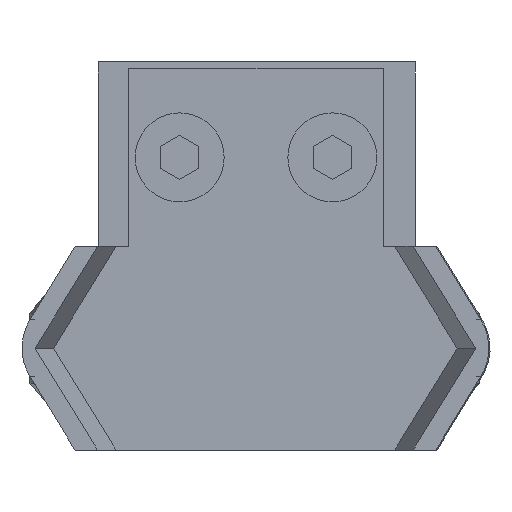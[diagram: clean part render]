
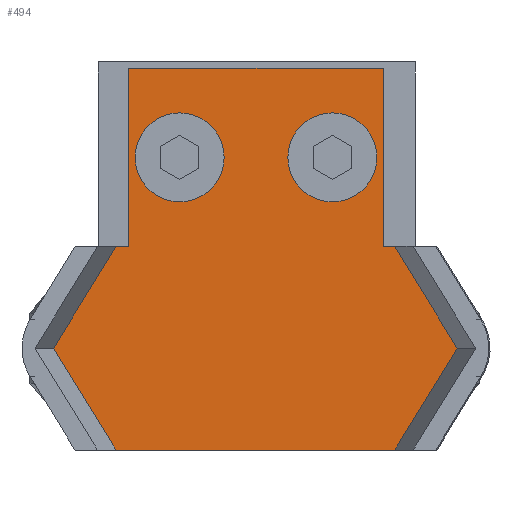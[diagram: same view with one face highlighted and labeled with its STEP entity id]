
A CAD part, left-side view. The second image highlights one B-rep face of the part: STEP entity #494.
In plain terms, the highlighted planar face has unit normal (-1, 0, 0).
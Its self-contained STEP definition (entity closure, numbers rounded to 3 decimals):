
#173 = LINE ( 'NONE', #5187, #6583 ) ;
#312 = CARTESIAN_POINT ( 'NONE',  ( 4., 7., 9.5 ) ) ;
#318 = VERTEX_POINT ( 'NONE', #1575 ) ;
#334 = ORIENTED_EDGE ( 'NONE', *, *, #6586, .F. ) ;
#479 = CARTESIAN_POINT ( 'NONE',  ( 4., 0., 10.899 ) ) ;
#494 = ADVANCED_FACE ( 'NONE', ( #3656, #1841, #1546 ), #5411, .F. ) ;
#552 = ORIENTED_EDGE ( 'NONE', *, *, #6124, .F. ) ;
#555 = DIRECTION ( 'NONE',  ( 0., 0.852, -0.523 ) ) ;
#560 = AXIS2_PLACEMENT_3D ( 'NONE', #3269, #6871, #6290 ) ;
#780 = VECTOR ( 'NONE', #6326, 1000. ) ;
#789 = CIRCLE ( 'NONE', #2034, 3.5 ) ;
#856 = DIRECTION ( 'NONE',  ( 0., 0., -1. ) ) ;
#878 = CARTESIAN_POINT ( 'NONE',  ( 4., 7., -6. ) ) ;
#929 = ORIENTED_EDGE ( 'NONE', *, *, #2336, .T. ) ;
#1027 = EDGE_CURVE ( 'NONE', #4035, #2420, #1358, .T. ) ;
#1049 = CARTESIAN_POINT ( 'NONE',  ( 4., -16., -10.999 ) ) ;
#1078 = ORIENTED_EDGE ( 'NONE', *, *, #6033, .T. ) ;
#1145 = ORIENTED_EDGE ( 'NONE', *, *, #7195, .F. ) ;
#1148 = LINE ( 'NONE', #479, #5589 ) ;
#1211 = AXIS2_PLACEMENT_3D ( 'NONE', #1239, #4903, #5469 ) ;
#1233 = AXIS2_PLACEMENT_3D ( 'NONE', #3637, #5389, #1691 ) ;
#1239 = CARTESIAN_POINT ( 'NONE',  ( 4., 7., -6. ) ) ;
#1358 = LINE ( 'NONE', #3595, #5988 ) ;
#1509 = EDGE_CURVE ( 'NONE', #2002, #3745, #4288, .T. ) ;
#1546 = FACE_BOUND ( 'NONE', #6380, .T. ) ;
#1575 = CARTESIAN_POINT ( 'NONE',  ( 4., -8., 15.814 ) ) ;
#1590 = EDGE_CURVE ( 'NONE', #4131, #6345, #7204, .T. ) ;
#1631 = EDGE_CURVE ( 'NONE', #5067, #7225, #2766, .T. ) ;
#1691 = DIRECTION ( 'NONE',  ( 0., 0., -1. ) ) ;
#1692 = ORIENTED_EDGE ( 'NONE', *, *, #2794, .F. ) ;
#1700 = CARTESIAN_POINT ( 'NONE',  ( 4., 14., -10. ) ) ;
#1752 = VERTEX_POINT ( 'NONE', #6266 ) ;
#1756 = VERTEX_POINT ( 'NONE', #2048 ) ;
#1841 = FACE_BOUND ( 'NONE', #2419, .T. ) ;
#1960 = ORIENTED_EDGE ( 'NONE', *, *, #1509, .F. ) ;
#1963 = CARTESIAN_POINT ( 'NONE',  ( 4., 0., -10. ) ) ;
#2002 = VERTEX_POINT ( 'NONE', #5959 ) ;
#2034 = AXIS2_PLACEMENT_3D ( 'NONE', #4967, #5633, #856 ) ;
#2048 = CARTESIAN_POINT ( 'NONE',  ( 4., 0., 10. ) ) ;
#2077 = EDGE_CURVE ( 'NONE', #1752, #1756, #5313, .T. ) ;
#2086 = LINE ( 'NONE', #6878, #5472 ) ;
#2169 = DIRECTION ( 'NONE',  ( 0., 0.852, 0.523 ) ) ;
#2178 = CARTESIAN_POINT ( 'NONE',  ( 4., 0., -10. ) ) ;
#2179 = LINE ( 'NONE', #1963, #4184 ) ;
#2336 = EDGE_CURVE ( 'NONE', #3407, #3745, #2179, .T. ) ;
#2354 = VECTOR ( 'NONE', #3751, 1000. ) ;
#2419 = EDGE_LOOP ( 'NONE', ( #2770, #1145 ) ) ;
#2420 = VERTEX_POINT ( 'NONE', #4343 ) ;
#2523 = DIRECTION ( 'NONE',  ( 0., 0., -1. ) ) ;
#2675 = LINE ( 'NONE', #1049, #2960 ) ;
#2766 = CIRCLE ( 'NONE', #560, 3.5 ) ;
#2770 = ORIENTED_EDGE ( 'NONE', *, *, #1590, .F. ) ;
#2794 = EDGE_CURVE ( 'NONE', #1752, #318, #1148, .T. ) ;
#2935 = DIRECTION ( 'NONE',  ( 0., 0., 1. ) ) ;
#2960 = VECTOR ( 'NONE', #555, 1000. ) ;
#3010 = AXIS2_PLACEMENT_3D ( 'NONE', #878, #3332, #3304 ) ;
#3169 = ORIENTED_EDGE ( 'NONE', *, *, #1027, .T. ) ;
#3239 = EDGE_CURVE ( 'NONE', #4420, #3407, #4185, .T. ) ;
#3269 = CARTESIAN_POINT ( 'NONE',  ( 4., 7., 6. ) ) ;
#3304 = DIRECTION ( 'NONE',  ( 0., 0., -1. ) ) ;
#3308 = LINE ( 'NONE', #7346, #2354 ) ;
#3332 = DIRECTION ( 'NONE',  ( -1., 0., 0. ) ) ;
#3407 = VERTEX_POINT ( 'NONE', #1700 ) ;
#3595 = CARTESIAN_POINT ( 'NONE',  ( 4., -16., 20. ) ) ;
#3637 = CARTESIAN_POINT ( 'NONE',  ( 4., 0., 0. ) ) ;
#3656 = FACE_OUTER_BOUND ( 'NONE', #6940, .T. ) ;
#3745 = VERTEX_POINT ( 'NONE', #2178 ) ;
#3751 = DIRECTION ( 'NONE',  ( 0., 1., 0. ) ) ;
#3931 = ORIENTED_EDGE ( 'NONE', *, *, #1631, .F. ) ;
#3998 = ORIENTED_EDGE ( 'NONE', *, *, #6077, .F. ) ;
#4035 = VERTEX_POINT ( 'NONE', #4472 ) ;
#4131 = VERTEX_POINT ( 'NONE', #7778 ) ;
#4184 = VECTOR ( 'NONE', #6159, 1000. ) ;
#4185 = LINE ( 'NONE', #5103, #780 ) ;
#4281 = CARTESIAN_POINT ( 'NONE',  ( 4., 7., 2.5 ) ) ;
#4288 = LINE ( 'NONE', #6539, #7297 ) ;
#4343 = CARTESIAN_POINT ( 'NONE',  ( 4., -16., 10.899 ) ) ;
#4399 = CARTESIAN_POINT ( 'NONE',  ( 4., 7., -2.5 ) ) ;
#4420 = VERTEX_POINT ( 'NONE', #7575 ) ;
#4472 = CARTESIAN_POINT ( 'NONE',  ( 4., -16., -10.999 ) ) ;
#4693 = ORIENTED_EDGE ( 'NONE', *, *, #5669, .F. ) ;
#4903 = DIRECTION ( 'NONE',  ( -1., 0., 0. ) ) ;
#4967 = CARTESIAN_POINT ( 'NONE',  ( 4., 7., 6. ) ) ;
#5067 = VERTEX_POINT ( 'NONE', #4281 ) ;
#5096 = DIRECTION ( 'NONE',  ( 0., -0.852, -0.523 ) ) ;
#5103 = CARTESIAN_POINT ( 'NONE',  ( 4., 14., -10. ) ) ;
#5116 = VECTOR ( 'NONE', #2523, 1000. ) ;
#5187 = CARTESIAN_POINT ( 'NONE',  ( 4., -8., -15.914 ) ) ;
#5313 = LINE ( 'NONE', #5590, #5116 ) ;
#5389 = DIRECTION ( 'NONE',  ( 1., 0., 0. ) ) ;
#5409 = DIRECTION ( 'NONE',  ( 0., -0.852, 0.523 ) ) ;
#5411 = PLANE ( 'NONE',  #1233 ) ;
#5469 = DIRECTION ( 'NONE',  ( 0., 0., -1. ) ) ;
#5472 = VECTOR ( 'NONE', #5096, 1000. ) ;
#5589 = VECTOR ( 'NONE', #5409, 1000. ) ;
#5590 = CARTESIAN_POINT ( 'NONE',  ( 4., 0., 10. ) ) ;
#5633 = DIRECTION ( 'NONE',  ( -1., 0., 0. ) ) ;
#5669 = EDGE_CURVE ( 'NONE', #7361, #2002, #173, .T. ) ;
#5959 = CARTESIAN_POINT ( 'NONE',  ( 4., 0., -10.999 ) ) ;
#5988 = VECTOR ( 'NONE', #2935, 1000. ) ;
#6020 = DIRECTION ( 'NONE',  ( 0., 0., 1. ) ) ;
#6033 = EDGE_CURVE ( 'NONE', #1756, #4420, #3308, .T. ) ;
#6077 = EDGE_CURVE ( 'NONE', #7225, #5067, #789, .T. ) ;
#6124 = EDGE_CURVE ( 'NONE', #318, #2420, #2086, .T. ) ;
#6159 = DIRECTION ( 'NONE',  ( 0., -1., 0. ) ) ;
#6266 = CARTESIAN_POINT ( 'NONE',  ( 4., 0., 10.899 ) ) ;
#6290 = DIRECTION ( 'NONE',  ( 0., 0., -1. ) ) ;
#6326 = DIRECTION ( 'NONE',  ( 0., 0., -1. ) ) ;
#6345 = VERTEX_POINT ( 'NONE', #4399 ) ;
#6380 = EDGE_LOOP ( 'NONE', ( #3931, #3998 ) ) ;
#6539 = CARTESIAN_POINT ( 'NONE',  ( 4., 0., 0. ) ) ;
#6570 = ORIENTED_EDGE ( 'NONE', *, *, #2077, .T. ) ;
#6583 = VECTOR ( 'NONE', #2169, 1000. ) ;
#6586 = EDGE_CURVE ( 'NONE', #4035, #7361, #2675, .T. ) ;
#6608 = CARTESIAN_POINT ( 'NONE',  ( 4., -8., -15.914 ) ) ;
#6850 = ORIENTED_EDGE ( 'NONE', *, *, #3239, .T. ) ;
#6871 = DIRECTION ( 'NONE',  ( -1., 0., 0. ) ) ;
#6878 = CARTESIAN_POINT ( 'NONE',  ( 4., -8., 15.814 ) ) ;
#6940 = EDGE_LOOP ( 'NONE', ( #1692, #6570, #1078, #6850, #929, #1960, #4693, #334, #3169, #552 ) ) ;
#7195 = EDGE_CURVE ( 'NONE', #6345, #4131, #7671, .T. ) ;
#7204 = CIRCLE ( 'NONE', #1211, 3.5 ) ;
#7225 = VERTEX_POINT ( 'NONE', #312 ) ;
#7297 = VECTOR ( 'NONE', #6020, 1000. ) ;
#7346 = CARTESIAN_POINT ( 'NONE',  ( 4., 14., 10. ) ) ;
#7361 = VERTEX_POINT ( 'NONE', #6608 ) ;
#7575 = CARTESIAN_POINT ( 'NONE',  ( 4., 14., 10. ) ) ;
#7671 = CIRCLE ( 'NONE', #3010, 3.5 ) ;
#7778 = CARTESIAN_POINT ( 'NONE',  ( 4., 7., -9.5 ) ) ;
